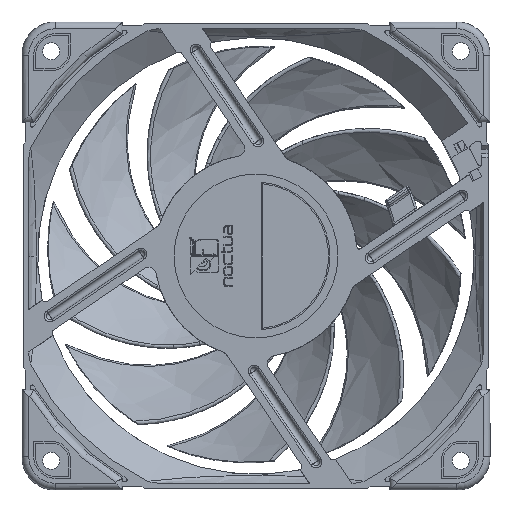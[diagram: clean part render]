
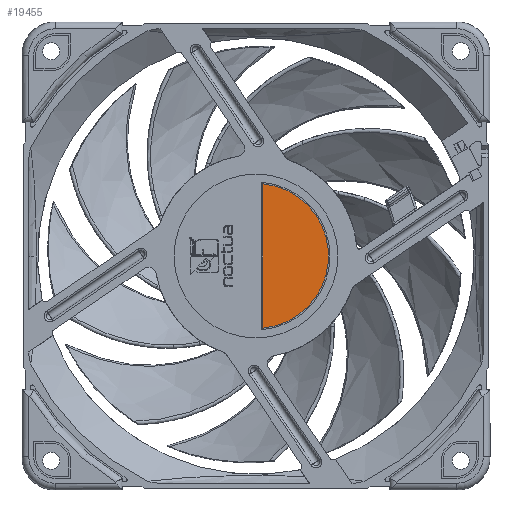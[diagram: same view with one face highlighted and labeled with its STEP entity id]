
A CAD part, front view. The second image highlights one B-rep face of the part: STEP entity #19455.
In plain terms, the highlighted planar face has unit normal (0, -1, 0) as drawn and (0, 0, 1) by its records, which use the part's own axes.
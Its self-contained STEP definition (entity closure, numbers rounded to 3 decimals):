
#1602=PLANE('',#23802);
#2900=LINE('',#52470,#4198);
#4198=VECTOR('',#28415,1000.);
#10320=ORIENTED_EDGE('',*,*,#13206,.F.);
#10321=ORIENTED_EDGE('',*,*,#13203,.F.);
#13203=EDGE_CURVE('',#15102,#15103,#2900,.T.);
#13206=EDGE_CURVE('',#15103,#15102,#15835,.T.);
#15102=VERTEX_POINT('',#52471);
#15103=VERTEX_POINT('',#52472);
#15835=CIRCLE('',#23798,18.6);
#17093=EDGE_LOOP('',(#10320,#10321));
#18353=FACE_BOUND('',#17093,.T.);
#19455=ADVANCED_FACE('',(#18353),#1602,.F.);
#23798=AXIS2_PLACEMENT_3D('',#52476,#28420,#28421);
#23802=AXIS2_PLACEMENT_3D('',#52480,#28428,#28429);
#28415=DIRECTION('',(1.,0.,0.));
#28420=DIRECTION('',(0.,0.,-1.));
#28421=DIRECTION('',(1.,0.,0.));
#28428=DIRECTION('',(0.,0.,-1.));
#28429=DIRECTION('',(-1.,0.,0.));
#52470=CARTESIAN_POINT('',(-18.522,-1.704,0.5));
#52471=CARTESIAN_POINT('',(-18.522,-1.704,0.5));
#52472=CARTESIAN_POINT('',(18.522,-1.704,0.5));
#52476=CARTESIAN_POINT('',(0.,0.,0.5));
#52480=CARTESIAN_POINT('',(0.,0.,0.5));
